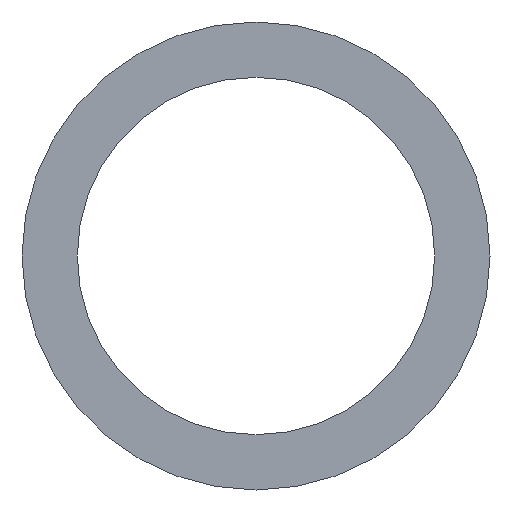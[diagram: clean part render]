
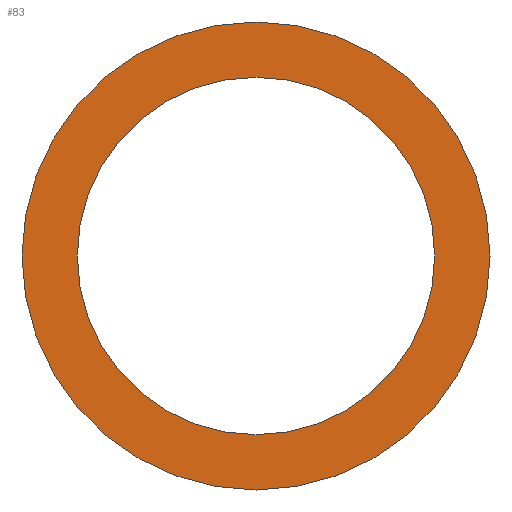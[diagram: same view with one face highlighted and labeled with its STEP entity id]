
A CAD part, front view. The second image highlights one B-rep face of the part: STEP entity #83.
In plain terms, the highlighted planar face has unit normal (0, -1, 0).
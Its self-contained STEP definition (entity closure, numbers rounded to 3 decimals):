
#22 = VERTEX_POINT('',#23);
#23 = CARTESIAN_POINT('',(2.75,0.,0.));
#39 = EDGE_CURVE('',#22,#22,#40,.T.);
#40 = CIRCLE('',#41,2.75);
#41 = AXIS2_PLACEMENT_3D('',#42,#43,#44);
#42 = CARTESIAN_POINT('',(0.,0.,0.));
#43 = DIRECTION('',(0.,1.,0.));
#44 = DIRECTION('',(1.,0.,0.));
#55 = VERTEX_POINT('',#56);
#56 = CARTESIAN_POINT('',(2.1,0.,0.));
#72 = EDGE_CURVE('',#55,#55,#73,.T.);
#73 = CIRCLE('',#74,2.1);
#74 = AXIS2_PLACEMENT_3D('',#75,#76,#77);
#75 = CARTESIAN_POINT('',(0.,0.,0.));
#76 = DIRECTION('',(0.,1.,0.));
#77 = DIRECTION('',(1.,0.,0.));
#83 = ADVANCED_FACE('',(#84,#87),#90,.F.);
#84 = FACE_BOUND('',#85,.F.);
#85 = EDGE_LOOP('',(#86));
#86 = ORIENTED_EDGE('',*,*,#39,.T.);
#87 = FACE_BOUND('',#88,.T.);
#88 = EDGE_LOOP('',(#89));
#89 = ORIENTED_EDGE('',*,*,#72,.T.);
#90 = PLANE('',#91);
#91 = AXIS2_PLACEMENT_3D('',#92,#93,#94);
#92 = CARTESIAN_POINT('',(0.,0.,
    0.));
#93 = DIRECTION('',(0.,1.,0.));
#94 = DIRECTION('',(1.,0.,0.));
